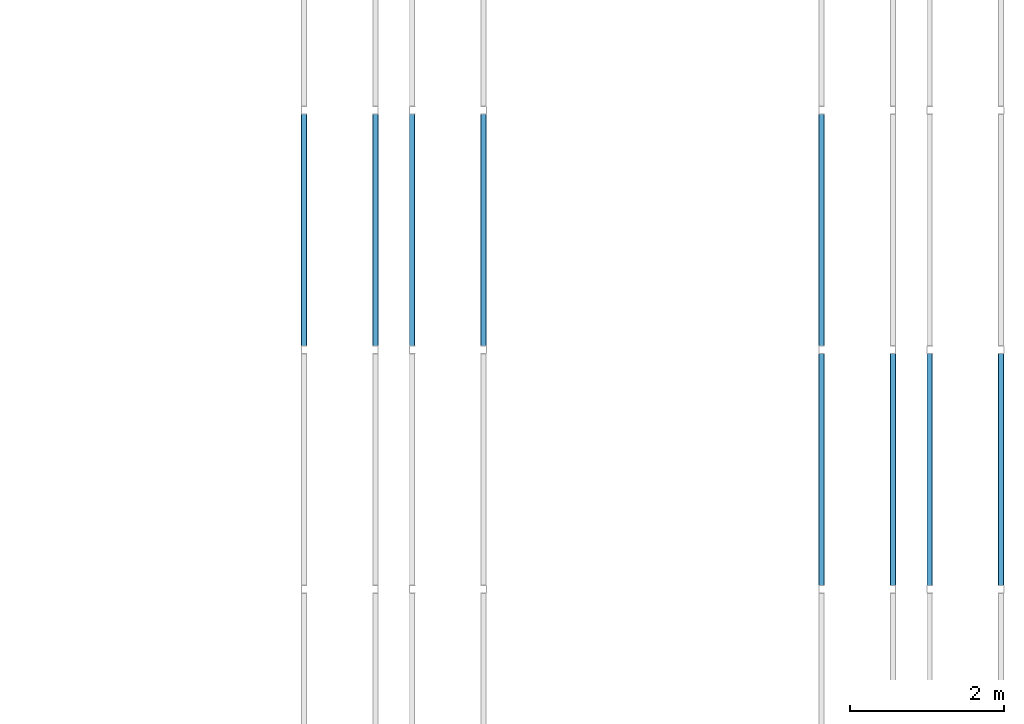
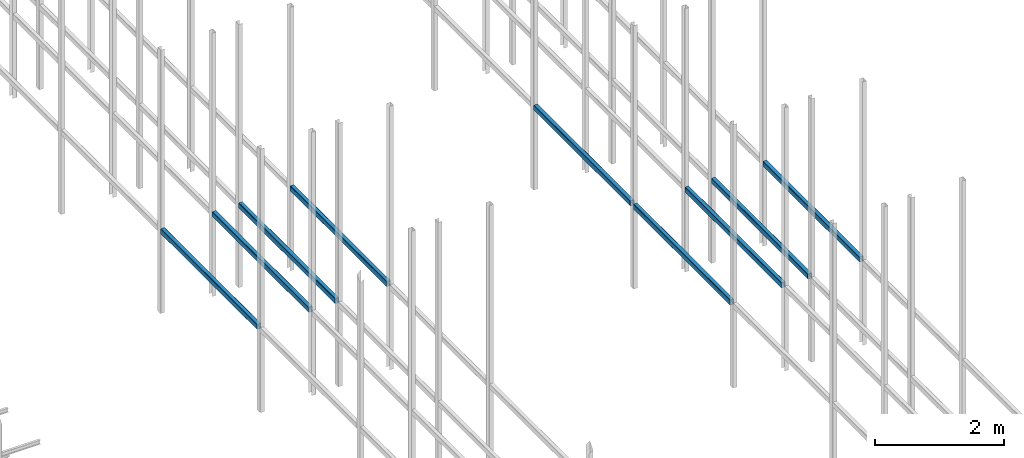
# One storey, part 187 of 302: 9 beams.
"""IFC2X3 building model written with IfcOpenShell, lengths in metres."""

from ifc_helpers import new_model, entity, si_unit, converted_unit, derived_unit, direction, frame, frame_2d, origin, place, context, subcontext, project, spatial, polyline, circle_curve, parameter, trimmed, segment, composite_curve, outline, extrude, material, type_object, element, save


model = new_model("IFC2X3")

# Units and contexts
model_context = context("Model", 3, precision=1e-05, world=origin(), true_north=direction((6.12303176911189e-17, 1.0)))
body_context = subcontext(model_context, "Body", "Model", "MODEL_VIEW")
ifc_project = project(units=[si_unit("LENGTHUNIT", "METRE"), si_unit("AREAUNIT", "SQUARE_METRE"), si_unit("VOLUMEUNIT", "CUBIC_METRE"), converted_unit("PLANEANGLEUNIT", "DEGREE", entity("IfcRatioMeasure", 0.0174532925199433), si_unit("PLANEANGLEUNIT", "RADIAN"), dimensions=[0, 0, 0, 0, 0, 0, 0]), si_unit("MASSUNIT", "GRAM", prefix="KILO"), derived_unit("MASSDENSITYUNIT", [(si_unit("MASSUNIT", "GRAM", prefix="KILO"), 1), (si_unit("LENGTHUNIT", "METRE"), -3)]), derived_unit("MOMENTOFINERTIAUNIT", [(si_unit("LENGTHUNIT", "METRE"), 4)]), si_unit("TIMEUNIT", "SECOND"), si_unit("FREQUENCYUNIT", "HERTZ"), si_unit("THERMODYNAMICTEMPERATUREUNIT", "DEGREE_CELSIUS"), derived_unit("THERMALTRANSMITTANCEUNIT", [(si_unit("MASSUNIT", "GRAM", prefix="KILO"), 1), (si_unit("THERMODYNAMICTEMPERATUREUNIT", "KELVIN"), -1), (si_unit("TIMEUNIT", "SECOND"), -3)]), derived_unit("VOLUMETRICFLOWRATEUNIT", [(si_unit("LENGTHUNIT", "METRE"), 3), (si_unit("TIMEUNIT", "SECOND"), -1)]), si_unit("ELECTRICCURRENTUNIT", "AMPERE"), si_unit("ELECTRICVOLTAGEUNIT", "VOLT"), si_unit("POWERUNIT", "WATT"), si_unit("FORCEUNIT", "NEWTON", prefix="KILO"), si_unit("ILLUMINANCEUNIT", "LUX"), si_unit("LUMINOUSFLUXUNIT", "LUMEN"), si_unit("LUMINOUSINTENSITYUNIT", "CANDELA"), derived_unit("USERDEFINED", [(si_unit("MASSUNIT", "GRAM", prefix="KILO"), -1), (si_unit("LENGTHUNIT", "METRE"), -2), (si_unit("TIMEUNIT", "SECOND"), 3), (si_unit("LUMINOUSFLUXUNIT", "LUMEN"), 1)]), derived_unit("LINEARVELOCITYUNIT", [(si_unit("LENGTHUNIT", "METRE"), 1), (si_unit("TIMEUNIT", "SECOND"), -1)]), si_unit("PRESSUREUNIT", "PASCAL"), derived_unit("USERDEFINED", [(si_unit("LENGTHUNIT", "METRE"), -2), (si_unit("MASSUNIT", "GRAM", prefix="KILO"), 1), (si_unit("TIMEUNIT", "SECOND"), -2)]), derived_unit("LINEARFORCEUNIT", [(si_unit("MASSUNIT", "GRAM", prefix="KILO"), 1), (si_unit("LENGTHUNIT", "METRE"), 1), (si_unit("TIMEUNIT", "SECOND"), -2), (si_unit("LENGTHUNIT", "METRE"), -1)]), derived_unit("PLANARFORCEUNIT", [(si_unit("MASSUNIT", "GRAM", prefix="KILO"), 1), (si_unit("LENGTHUNIT", "METRE"), 1), (si_unit("TIMEUNIT", "SECOND"), -2), (si_unit("LENGTHUNIT", "METRE"), -2)])], contexts=[model_context])

# Site, building, storey
site_placement = place(None, origin())
site = spatial("IfcSite", under=ifc_project, at=site_placement, Name="Default", CompositionType="ELEMENT")
building_placement = place(site_placement, origin())
building = spatial("IfcBuilding", under=site, at=building_placement, CompositionType="ELEMENT")
storey_placement = place(building_placement, frame((0.0, 0.0, -1.3)))
storey = spatial("IfcBuildingStorey", under=building, at=storey_placement, Name="00_EG", CompositionType="ELEMENT", Elevation=-1.3)

# Beams
ifc_material = material(Name="Metall - Baustahl S235 blau")
beam_type = type_object("IfcBeamType", Name="RHS Träger (EN 10219-2):RHS 100 x 75 x 5", PredefinedType="NOTDEFINED")
beam_1_placement = place(storey_placement, frame((-159.118311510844, 51.4480889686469, 2.885), z_axis=(0.0, 0.0, 1.0), x_axis=(0.0, 1.0, 0.0)))
element("IfcBeam", 1, at=beam_1_placement, inside=storey, type_object=beam_type, material=ifc_material, Name="RHS Träger (EN 10219-2):RHS 100 x 75 x 5", ObjectType="RHS Träger (EN 10219-2):RHS 100 x 75 x 5", context=body_context, shape_type="SweptSolid", body=[
    extrude(outline(composite_curve([segment(trimmed(circle_curve(frame_2d((-0.0274999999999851, -0.0400000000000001), x_axis=(1.0, 0.0)), 0.01), [parameter(180.0)], [parameter(270.0)], True, "PARAMETER"), True, "CONTINUOUS"), segment(polyline([(-0.0274999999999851, -0.05), (0.0274999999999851, -0.05)]), True, "CONTINUOUS"), segment(trimmed(circle_curve(frame_2d((0.0274999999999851, -0.0400000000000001), x_axis=(1.0, 0.0)), 0.01), [parameter(270.0)], [parameter(5.08888749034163e-14)], True, "PARAMETER"), True, "CONTINUOUS"), segment(polyline([(0.0375000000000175, -0.0399999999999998), (0.0375000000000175, 0.0400000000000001)]), True, "CONTINUOUS"), segment(trimmed(circle_curve(frame_2d((0.0274999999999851, 0.0399999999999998), x_axis=(1.0, 0.0)), 0.01), [parameter(360.0)], [parameter(89.9999999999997)], True, "PARAMETER"), True, "CONTINUOUS"), segment(polyline([(0.0274999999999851, 0.05), (-0.0274999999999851, 0.05)]), True, "CONTINUOUS"), segment(trimmed(circle_curve(frame_2d((-0.0274999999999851, 0.0399999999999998), x_axis=(1.0, 0.0)), 0.01), [parameter(90.0000000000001)], [parameter(180.0)], True, "PARAMETER"), True, "CONTINUOUS"), segment(polyline([(-0.0374999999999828, 0.0400000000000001), (-0.0374999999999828, -0.0399999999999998)]), True, "CONTINUOUS")], self_intersect=False), holes=[composite_curve([segment(polyline([(0.0274999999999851, -0.0450000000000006), (-0.0274999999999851, -0.0450000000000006)]), True, "CONTINUOUS"), segment(trimmed(circle_curve(frame_2d((-0.0274999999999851, -0.0400000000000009), x_axis=(1.0, 0.0)), 0.005), [parameter(180.0)], [parameter(270.0)], True, "PARAMETER"), False, "CONTINUOUS"), segment(polyline([(-0.0325000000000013, -0.0400000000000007), (-0.0325000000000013, 0.0399999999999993)]), True, "CONTINUOUS"), segment(trimmed(circle_curve(frame_2d((-0.0274999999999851, 0.039999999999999), x_axis=(1.0, 0.0)), 0.005), [parameter(90.0000000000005)], [parameter(180.0)], True, "PARAMETER"), False, "CONTINUOUS"), segment(polyline([(-0.0274999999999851, 0.0449999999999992), (0.0274999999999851, 0.0449999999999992)]), True, "CONTINUOUS"), segment(trimmed(circle_curve(frame_2d((0.0274999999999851, 0.039999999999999), x_axis=(1.0, 0.0)), 0.005), [parameter(0.0)], [parameter(90.0000000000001)], True, "PARAMETER"), False, "CONTINUOUS"), segment(polyline([(0.0325000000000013, 0.0399999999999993), (0.0325000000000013, -0.0400000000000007)]), True, "CONTINUOUS"), segment(trimmed(circle_curve(frame_2d((0.0274999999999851, -0.0400000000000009), x_axis=(1.0, 0.0)), 0.005), [parameter(270.0)], [parameter(4.07110999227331e-13)], True, "PARAMETER"), False, "CONTINUOUS")], self_intersect=False)]), frame((0.000100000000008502, 0.0375000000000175, -0.0500000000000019), z_axis=(1.0, 0.0, 0.0), x_axis=(0.0, -1.0, 0.0)), (0.0, 0.0, 1.0), 2.99979999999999),
])
beam_2_placement = place(storey_placement, frame((-158.268311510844, 51.4480889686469, 2.885), z_axis=(0.0, 0.0, 1.0), x_axis=(0.0, 1.0, 0.0)))
element("IfcBeam", 2, at=beam_2_placement, inside=storey, type_object=beam_type, material=ifc_material, Name="RHS Träger (EN 10219-2):RHS 100 x 75 x 5", ObjectType="RHS Träger (EN 10219-2):RHS 100 x 75 x 5", context=body_context, shape_type="SweptSolid", body=[
    extrude(outline(composite_curve([segment(polyline([(-0.0399999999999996, -0.0375000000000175), (0.0400000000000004, -0.0375000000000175)]), True, "CONTINUOUS"), segment(trimmed(circle_curve(frame_2d((0.0400000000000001, -0.0275000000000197), x_axis=(0.0, 1.0)), 0.01), [parameter(180.0)], [parameter(270.0)], True, "PARAMETER"), True, "CONTINUOUS"), segment(polyline([(0.0500000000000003, -0.0275000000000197), (0.0500000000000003, 0.0274999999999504)]), True, "CONTINUOUS"), segment(trimmed(circle_curve(frame_2d((0.0400000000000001, 0.0274999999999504), x_axis=(0.0, 1.0)), 0.01), [parameter(270.0)], [parameter(4.07110999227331e-13)], True, "PARAMETER"), True, "CONTINUOUS"), segment(polyline([(0.0400000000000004, 0.0374999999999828), (-0.0399999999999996, 0.0374999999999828)]), True, "CONTINUOUS"), segment(trimmed(circle_curve(frame_2d((-0.0399999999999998, 0.0274999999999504), x_axis=(0.0, 1.0)), 0.01), [parameter(360.0)], [parameter(90.0000000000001)], True, "PARAMETER"), True, "CONTINUOUS"), segment(polyline([(-0.0499999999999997, 0.0274999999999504), (-0.0499999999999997, -0.0275000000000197)]), True, "CONTINUOUS"), segment(trimmed(circle_curve(frame_2d((-0.0399999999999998, -0.0275000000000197), x_axis=(0.0, 1.0)), 0.01), [parameter(90.0000000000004)], [parameter(180.0)], True, "PARAMETER"), True, "CONTINUOUS")], self_intersect=False), holes=[composite_curve([segment(trimmed(circle_curve(frame_2d((-0.0400000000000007, 0.0274999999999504), x_axis=(0.0, 1.0)), 0.005), [parameter(360.0)], [parameter(89.9999999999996)], True, "PARAMETER"), False, "CONTINUOUS"), segment(polyline([(-0.0400000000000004, 0.0324999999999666), (0.0399999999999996, 0.0324999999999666)]), True, "CONTINUOUS"), segment(trimmed(circle_curve(frame_2d((0.0399999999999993, 0.0274999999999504), x_axis=(0.0, 1.0)), 0.005), [parameter(270.0)], [parameter(0.0)], True, "PARAMETER"), False, "CONTINUOUS"), segment(polyline([(0.0449999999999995, 0.0274999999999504), (0.0449999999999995, -0.0275000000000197)]), True, "CONTINUOUS"), segment(trimmed(circle_curve(frame_2d((0.0399999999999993, -0.0275000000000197), x_axis=(0.0, 1.0)), 0.005), [parameter(180.0)], [parameter(269.999999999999)], True, "PARAMETER"), False, "CONTINUOUS"), segment(polyline([(0.0399999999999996, -0.0325000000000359), (-0.0400000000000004, -0.0325000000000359)]), True, "CONTINUOUS"), segment(trimmed(circle_curve(frame_2d((-0.0400000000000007, -0.0275000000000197), x_axis=(0.0, 1.0)), 0.005), [parameter(90.0000000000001)], [parameter(180.0)], True, "PARAMETER"), False, "CONTINUOUS"), segment(polyline([(-0.0450000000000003, -0.0275000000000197), (-0.0450000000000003, 0.0274999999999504)]), True, "CONTINUOUS")], self_intersect=False)]), frame((9.99999999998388e-05, -0.0374999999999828, -0.0500000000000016), z_axis=(1.0, 0.0, 0.0), x_axis=(0.0, 0.0, -1.0)), (0.0, 0.0, 1.0), 2.99979999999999),
])
beam_3_placement = place(storey_placement, frame((-157.718311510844, 51.4480889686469, 2.885), z_axis=(0.0, 0.0, 1.0), x_axis=(0.0, 1.0, 0.0)))
element("IfcBeam", 3, at=beam_3_placement, inside=storey, type_object=beam_type, material=ifc_material, Name="RHS Träger (EN 10219-2):RHS 100 x 75 x 5", ObjectType="RHS Träger (EN 10219-2):RHS 100 x 75 x 5", context=body_context, shape_type="SweptSolid", body=[
    extrude(outline(composite_curve([segment(trimmed(circle_curve(frame_2d((-0.0274999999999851, -0.0400000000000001), x_axis=(1.0, 0.0)), 0.01), [parameter(180.0)], [parameter(270.0)], True, "PARAMETER"), True, "CONTINUOUS"), segment(polyline([(-0.0274999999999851, -0.05), (0.0274999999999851, -0.05)]), True, "CONTINUOUS"), segment(trimmed(circle_curve(frame_2d((0.0274999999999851, -0.0400000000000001), x_axis=(1.0, 0.0)), 0.01), [parameter(270.0)], [parameter(5.08888749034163e-14)], True, "PARAMETER"), True, "CONTINUOUS"), segment(polyline([(0.0375000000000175, -0.0399999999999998), (0.0375000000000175, 0.0400000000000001)]), True, "CONTINUOUS"), segment(trimmed(circle_curve(frame_2d((0.0274999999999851, 0.0399999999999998), x_axis=(1.0, 0.0)), 0.01), [parameter(360.0)], [parameter(89.9999999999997)], True, "PARAMETER"), True, "CONTINUOUS"), segment(polyline([(0.0274999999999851, 0.05), (-0.0274999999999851, 0.05)]), True, "CONTINUOUS"), segment(trimmed(circle_curve(frame_2d((-0.0274999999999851, 0.0399999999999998), x_axis=(1.0, 0.0)), 0.01), [parameter(90.0000000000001)], [parameter(180.0)], True, "PARAMETER"), True, "CONTINUOUS"), segment(polyline([(-0.0374999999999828, 0.0400000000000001), (-0.0374999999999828, -0.0399999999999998)]), True, "CONTINUOUS")], self_intersect=False), holes=[composite_curve([segment(polyline([(0.0274999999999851, -0.0450000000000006), (-0.0274999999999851, -0.0450000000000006)]), True, "CONTINUOUS"), segment(trimmed(circle_curve(frame_2d((-0.0274999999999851, -0.0400000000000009), x_axis=(1.0, 0.0)), 0.005), [parameter(180.0)], [parameter(270.0)], True, "PARAMETER"), False, "CONTINUOUS"), segment(polyline([(-0.0325000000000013, -0.0400000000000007), (-0.0325000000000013, 0.0399999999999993)]), True, "CONTINUOUS"), segment(trimmed(circle_curve(frame_2d((-0.0274999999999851, 0.039999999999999), x_axis=(1.0, 0.0)), 0.005), [parameter(90.0000000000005)], [parameter(180.0)], True, "PARAMETER"), False, "CONTINUOUS"), segment(polyline([(-0.0274999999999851, 0.0449999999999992), (0.0274999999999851, 0.0449999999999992)]), True, "CONTINUOUS"), segment(trimmed(circle_curve(frame_2d((0.0274999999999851, 0.039999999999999), x_axis=(1.0, 0.0)), 0.005), [parameter(0.0)], [parameter(90.0000000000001)], True, "PARAMETER"), False, "CONTINUOUS"), segment(polyline([(0.0325000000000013, 0.0399999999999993), (0.0325000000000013, -0.0400000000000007)]), True, "CONTINUOUS"), segment(trimmed(circle_curve(frame_2d((0.0274999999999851, -0.0400000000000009), x_axis=(1.0, 0.0)), 0.005), [parameter(270.0)], [parameter(4.07110999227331e-13)], True, "PARAMETER"), False, "CONTINUOUS")], self_intersect=False)]), frame((0.000100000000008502, 0.0375000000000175, -0.0500000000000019), z_axis=(1.0, 0.0, 0.0), x_axis=(0.0, -1.0, 0.0)), (0.0, 0.0, 1.0), 2.99979999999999),
])
beam_4_placement = place(storey_placement, frame((-156.868311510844, 51.4480889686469, 2.885), z_axis=(0.0, 0.0, 1.0), x_axis=(0.0, 1.0, 0.0)))
element("IfcBeam", 4, at=beam_4_placement, inside=storey, type_object=beam_type, material=ifc_material, Name="RHS Träger (EN 10219-2):RHS 100 x 75 x 5", ObjectType="RHS Träger (EN 10219-2):RHS 100 x 75 x 5", context=body_context, shape_type="SweptSolid", body=[
    extrude(outline(composite_curve([segment(polyline([(-0.0399999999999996, -0.0374999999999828), (0.0400000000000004, -0.0374999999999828)]), True, "CONTINUOUS"), segment(trimmed(circle_curve(frame_2d((0.0400000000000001, -0.0274999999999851), x_axis=(0.0, 1.0)), 0.01), [parameter(180.0)], [parameter(270.0)], True, "PARAMETER"), True, "CONTINUOUS"), segment(polyline([(0.0500000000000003, -0.0274999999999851), (0.0500000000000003, 0.0274999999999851)]), True, "CONTINUOUS"), segment(trimmed(circle_curve(frame_2d((0.0400000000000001, 0.0274999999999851), x_axis=(0.0, 1.0)), 0.01), [parameter(270.0)], [parameter(4.07110999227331e-13)], True, "PARAMETER"), True, "CONTINUOUS"), segment(polyline([(0.0400000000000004, 0.0375000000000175), (-0.0399999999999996, 0.0375000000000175)]), True, "CONTINUOUS"), segment(trimmed(circle_curve(frame_2d((-0.0399999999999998, 0.0274999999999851), x_axis=(0.0, 1.0)), 0.01), [parameter(360.0)], [parameter(90.0000000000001)], True, "PARAMETER"), True, "CONTINUOUS"), segment(polyline([(-0.0499999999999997, 0.0274999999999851), (-0.0499999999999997, -0.0274999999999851)]), True, "CONTINUOUS"), segment(trimmed(circle_curve(frame_2d((-0.0399999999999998, -0.0274999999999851), x_axis=(0.0, 1.0)), 0.01), [parameter(90.0000000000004)], [parameter(180.0)], True, "PARAMETER"), True, "CONTINUOUS")], self_intersect=False), holes=[composite_curve([segment(trimmed(circle_curve(frame_2d((-0.0400000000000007, 0.0274999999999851), x_axis=(0.0, 1.0)), 0.005), [parameter(360.0)], [parameter(89.9999999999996)], True, "PARAMETER"), False, "CONTINUOUS"), segment(polyline([(-0.0400000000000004, 0.0325000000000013), (0.0399999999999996, 0.0325000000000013)]), True, "CONTINUOUS"), segment(trimmed(circle_curve(frame_2d((0.0399999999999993, 0.0274999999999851), x_axis=(0.0, 1.0)), 0.005), [parameter(270.0)], [parameter(0.0)], True, "PARAMETER"), False, "CONTINUOUS"), segment(polyline([(0.0449999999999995, 0.0274999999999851), (0.0449999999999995, -0.0274999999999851)]), True, "CONTINUOUS"), segment(trimmed(circle_curve(frame_2d((0.0399999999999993, -0.0274999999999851), x_axis=(0.0, 1.0)), 0.005), [parameter(180.0)], [parameter(269.999999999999)], True, "PARAMETER"), False, "CONTINUOUS"), segment(polyline([(0.0399999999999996, -0.0325000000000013), (-0.0400000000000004, -0.0325000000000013)]), True, "CONTINUOUS"), segment(trimmed(circle_curve(frame_2d((-0.0400000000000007, -0.0274999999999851), x_axis=(0.0, 1.0)), 0.005), [parameter(90.0000000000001)], [parameter(180.0)], True, "PARAMETER"), False, "CONTINUOUS"), segment(polyline([(-0.0450000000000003, -0.0274999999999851), (-0.0450000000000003, 0.0274999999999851)]), True, "CONTINUOUS")], self_intersect=False)]), frame((9.99999999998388e-05, -0.0375000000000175, -0.0500000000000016), z_axis=(1.0, 0.0, 0.0), x_axis=(0.0, 0.0, -1.0)), (0.0, 0.0, 1.0), 2.99979999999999),
])
beam_5_placement = place(storey_placement, frame((-152.418311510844, 48.3480889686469, 2.885), z_axis=(0.0, 0.0, 1.0), x_axis=(0.0, 1.0, 0.0)))
element("IfcBeam", 5, at=beam_5_placement, inside=storey, type_object=beam_type, material=ifc_material, Name="RHS Träger (EN 10219-2):RHS 100 x 75 x 5", ObjectType="RHS Träger (EN 10219-2):RHS 100 x 75 x 5", context=body_context, shape_type="SweptSolid", body=[
    extrude(outline(composite_curve([segment(trimmed(circle_curve(frame_2d((-0.0275000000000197, -0.0400000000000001), x_axis=(1.0, 0.0)), 0.01), [parameter(180.0)], [parameter(270.0)], True, "PARAMETER"), True, "CONTINUOUS"), segment(polyline([(-0.0275000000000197, -0.05), (0.0274999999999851, -0.05)]), True, "CONTINUOUS"), segment(trimmed(circle_curve(frame_2d((0.0274999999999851, -0.0400000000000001), x_axis=(1.0, 0.0)), 0.01), [parameter(270.0)], [parameter(5.08888749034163e-14)], True, "PARAMETER"), True, "CONTINUOUS"), segment(polyline([(0.0374999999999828, -0.0399999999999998), (0.0374999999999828, 0.0400000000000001)]), True, "CONTINUOUS"), segment(trimmed(circle_curve(frame_2d((0.0274999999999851, 0.0399999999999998), x_axis=(1.0, 0.0)), 0.01), [parameter(360.0)], [parameter(89.9999999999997)], True, "PARAMETER"), True, "CONTINUOUS"), segment(polyline([(0.0274999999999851, 0.05), (-0.0275000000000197, 0.05)]), True, "CONTINUOUS"), segment(trimmed(circle_curve(frame_2d((-0.0275000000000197, 0.0399999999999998), x_axis=(1.0, 0.0)), 0.01), [parameter(90.0000000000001)], [parameter(180.0)], True, "PARAMETER"), True, "CONTINUOUS"), segment(polyline([(-0.0375000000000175, 0.0400000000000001), (-0.0375000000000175, -0.0399999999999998)]), True, "CONTINUOUS")], self_intersect=False), holes=[composite_curve([segment(polyline([(0.0274999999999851, -0.0450000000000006), (-0.0275000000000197, -0.0450000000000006)]), True, "CONTINUOUS"), segment(trimmed(circle_curve(frame_2d((-0.0275000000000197, -0.0400000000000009), x_axis=(1.0, 0.0)), 0.005), [parameter(180.0)], [parameter(270.0)], True, "PARAMETER"), False, "CONTINUOUS"), segment(polyline([(-0.0325000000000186, -0.0400000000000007), (-0.0325000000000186, 0.0399999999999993)]), True, "CONTINUOUS"), segment(trimmed(circle_curve(frame_2d((-0.0275000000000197, 0.039999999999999), x_axis=(1.0, 0.0)), 0.005), [parameter(90.0000000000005)], [parameter(180.0)], True, "PARAMETER"), False, "CONTINUOUS"), segment(polyline([(-0.0275000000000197, 0.0449999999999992), (0.0274999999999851, 0.0449999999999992)]), True, "CONTINUOUS"), segment(trimmed(circle_curve(frame_2d((0.0274999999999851, 0.039999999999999), x_axis=(1.0, 0.0)), 0.005), [parameter(0.0)], [parameter(90.0000000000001)], True, "PARAMETER"), False, "CONTINUOUS"), segment(polyline([(0.0324999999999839, 0.0399999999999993), (0.0324999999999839, -0.0400000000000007)]), True, "CONTINUOUS"), segment(trimmed(circle_curve(frame_2d((0.0274999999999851, -0.0400000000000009), x_axis=(1.0, 0.0)), 0.005), [parameter(270.0)], [parameter(4.07110999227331e-13)], True, "PARAMETER"), False, "CONTINUOUS")], self_intersect=False)]), frame((0.000100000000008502, 0.0374999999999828, -0.0500000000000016), z_axis=(1.0, 0.0, 0.0), x_axis=(0.0, -1.0, 0.0)), (0.0, 0.0, 1.0), 2.99979999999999),
])
beam_6_placement = place(storey_placement, frame((-151.568311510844, 48.3480889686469, 2.885), z_axis=(0.0, 0.0, 1.0), x_axis=(0.0, 1.0, 0.0)))
element("IfcBeam", 6, at=beam_6_placement, inside=storey, type_object=beam_type, material=ifc_material, Name="RHS Träger (EN 10219-2):RHS 100 x 75 x 5", ObjectType="RHS Träger (EN 10219-2):RHS 100 x 75 x 5", context=body_context, shape_type="SweptSolid", body=[
    extrude(outline(composite_curve([segment(polyline([(-0.0399999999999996, -0.0374999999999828), (0.0400000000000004, -0.0374999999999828)]), True, "CONTINUOUS"), segment(trimmed(circle_curve(frame_2d((0.0400000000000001, -0.0274999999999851), x_axis=(0.0, 1.0)), 0.01), [parameter(180.0)], [parameter(270.0)], True, "PARAMETER"), True, "CONTINUOUS"), segment(polyline([(0.0500000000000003, -0.0274999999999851), (0.0500000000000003, 0.0275000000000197)]), True, "CONTINUOUS"), segment(trimmed(circle_curve(frame_2d((0.0400000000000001, 0.0275000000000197), x_axis=(0.0, 1.0)), 0.01), [parameter(270.0)], [parameter(4.07110999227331e-13)], True, "PARAMETER"), True, "CONTINUOUS"), segment(polyline([(0.0400000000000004, 0.0375000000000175), (-0.0399999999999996, 0.0375000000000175)]), True, "CONTINUOUS"), segment(trimmed(circle_curve(frame_2d((-0.0399999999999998, 0.0275000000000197), x_axis=(0.0, 1.0)), 0.01), [parameter(360.0)], [parameter(90.0000000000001)], True, "PARAMETER"), True, "CONTINUOUS"), segment(polyline([(-0.0499999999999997, 0.0275000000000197), (-0.0499999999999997, -0.0274999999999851)]), True, "CONTINUOUS"), segment(trimmed(circle_curve(frame_2d((-0.0399999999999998, -0.0274999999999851), x_axis=(0.0, 1.0)), 0.01), [parameter(90.0000000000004)], [parameter(180.0)], True, "PARAMETER"), True, "CONTINUOUS")], self_intersect=False), holes=[composite_curve([segment(trimmed(circle_curve(frame_2d((-0.0400000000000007, 0.0275000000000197), x_axis=(0.0, 1.0)), 0.005), [parameter(360.0)], [parameter(89.9999999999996)], True, "PARAMETER"), False, "CONTINUOUS"), segment(polyline([(-0.0400000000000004, 0.0325000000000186), (0.0399999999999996, 0.0325000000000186)]), True, "CONTINUOUS"), segment(trimmed(circle_curve(frame_2d((0.0399999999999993, 0.0275000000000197), x_axis=(0.0, 1.0)), 0.005), [parameter(270.0)], [parameter(0.0)], True, "PARAMETER"), False, "CONTINUOUS"), segment(polyline([(0.0449999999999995, 0.0275000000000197), (0.0449999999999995, -0.0274999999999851)]), True, "CONTINUOUS"), segment(trimmed(circle_curve(frame_2d((0.0399999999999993, -0.0274999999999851), x_axis=(0.0, 1.0)), 0.005), [parameter(180.0)], [parameter(269.999999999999)], True, "PARAMETER"), False, "CONTINUOUS"), segment(polyline([(0.0399999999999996, -0.0324999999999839), (-0.0400000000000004, -0.0324999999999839)]), True, "CONTINUOUS"), segment(trimmed(circle_curve(frame_2d((-0.0400000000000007, -0.0274999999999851), x_axis=(0.0, 1.0)), 0.005), [parameter(90.0000000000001)], [parameter(180.0)], True, "PARAMETER"), False, "CONTINUOUS"), segment(polyline([(-0.0450000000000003, -0.0274999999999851), (-0.0450000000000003, 0.0275000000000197)]), True, "CONTINUOUS")], self_intersect=False)]), frame((0.000100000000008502, -0.0375000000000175, -0.0500000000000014), z_axis=(1.0, 0.0, 0.0), x_axis=(0.0, 0.0, -1.0)), (0.0, 0.0, 1.0), 2.99979999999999),
])
beam_7_placement = place(storey_placement, frame((-151.018311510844, 48.3480889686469, 2.885), z_axis=(0.0, 0.0, 1.0), x_axis=(0.0, 1.0, 0.0)))
element("IfcBeam", 7, at=beam_7_placement, inside=storey, type_object=beam_type, material=ifc_material, Name="RHS Träger (EN 10219-2):RHS 100 x 75 x 5", ObjectType="RHS Träger (EN 10219-2):RHS 100 x 75 x 5", context=body_context, shape_type="SweptSolid", body=[
    extrude(outline(composite_curve([segment(trimmed(circle_curve(frame_2d((-0.0275000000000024, -0.0400000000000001), x_axis=(1.0, 0.0)), 0.01), [parameter(180.0)], [parameter(270.0)], True, "PARAMETER"), True, "CONTINUOUS"), segment(polyline([(-0.0275000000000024, -0.05), (0.0275000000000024, -0.05)]), True, "CONTINUOUS"), segment(trimmed(circle_curve(frame_2d((0.0275000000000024, -0.0400000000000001), x_axis=(1.0, 0.0)), 0.01), [parameter(270.0)], [parameter(5.08888749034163e-14)], True, "PARAMETER"), True, "CONTINUOUS"), segment(polyline([(0.0375000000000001, -0.0399999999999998), (0.0375000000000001, 0.0400000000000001)]), True, "CONTINUOUS"), segment(trimmed(circle_curve(frame_2d((0.0275000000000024, 0.0399999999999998), x_axis=(1.0, 0.0)), 0.01), [parameter(360.0)], [parameter(89.9999999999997)], True, "PARAMETER"), True, "CONTINUOUS"), segment(polyline([(0.0275000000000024, 0.05), (-0.0275000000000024, 0.05)]), True, "CONTINUOUS"), segment(trimmed(circle_curve(frame_2d((-0.0275000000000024, 0.0399999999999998), x_axis=(1.0, 0.0)), 0.01), [parameter(90.0000000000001)], [parameter(180.0)], True, "PARAMETER"), True, "CONTINUOUS"), segment(polyline([(-0.0375000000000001, 0.0400000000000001), (-0.0375000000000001, -0.0399999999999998)]), True, "CONTINUOUS")], self_intersect=False), holes=[composite_curve([segment(polyline([(0.0275000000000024, -0.0450000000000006), (-0.0275000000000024, -0.0450000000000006)]), True, "CONTINUOUS"), segment(trimmed(circle_curve(frame_2d((-0.0275000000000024, -0.0400000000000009), x_axis=(1.0, 0.0)), 0.005), [parameter(180.0)], [parameter(270.0)], True, "PARAMETER"), False, "CONTINUOUS"), segment(polyline([(-0.0325000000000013, -0.0400000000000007), (-0.0325000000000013, 0.0399999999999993)]), True, "CONTINUOUS"), segment(trimmed(circle_curve(frame_2d((-0.0275000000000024, 0.039999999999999), x_axis=(1.0, 0.0)), 0.005), [parameter(90.0000000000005)], [parameter(180.0)], True, "PARAMETER"), False, "CONTINUOUS"), segment(polyline([(-0.0275000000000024, 0.0449999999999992), (0.0275000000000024, 0.0449999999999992)]), True, "CONTINUOUS"), segment(trimmed(circle_curve(frame_2d((0.0275000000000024, 0.039999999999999), x_axis=(1.0, 0.0)), 0.005), [parameter(0.0)], [parameter(90.0000000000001)], True, "PARAMETER"), False, "CONTINUOUS"), segment(polyline([(0.0325000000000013, 0.0399999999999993), (0.0325000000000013, -0.0400000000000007)]), True, "CONTINUOUS"), segment(trimmed(circle_curve(frame_2d((0.0275000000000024, -0.0400000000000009), x_axis=(1.0, 0.0)), 0.005), [parameter(270.0)], [parameter(4.07110999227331e-13)], True, "PARAMETER"), False, "CONTINUOUS")], self_intersect=False)]), frame((0.000100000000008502, 0.0375000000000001, -0.0500000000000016), z_axis=(1.0, 0.0, 0.0), x_axis=(0.0, -1.0, 0.0)), (0.0, 0.0, 1.0), 2.99979999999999),
])
beam_8_placement = place(storey_placement, frame((-150.168311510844, 48.3480889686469, 2.885), z_axis=(0.0, 0.0, 1.0), x_axis=(0.0, 1.0, 0.0)))
element("IfcBeam", 8, at=beam_8_placement, inside=storey, type_object=beam_type, material=ifc_material, Name="RHS Träger (EN 10219-2):RHS 100 x 75 x 5", ObjectType="RHS Träger (EN 10219-2):RHS 100 x 75 x 5", context=body_context, shape_type="SweptSolid", body=[
    extrude(outline(composite_curve([segment(polyline([(-0.0399999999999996, -0.0375000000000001), (0.0400000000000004, -0.0375000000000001)]), True, "CONTINUOUS"), segment(trimmed(circle_curve(frame_2d((0.0400000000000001, -0.0275000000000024), x_axis=(0.0, 1.0)), 0.01), [parameter(180.0)], [parameter(270.0)], True, "PARAMETER"), True, "CONTINUOUS"), segment(polyline([(0.0500000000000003, -0.0275000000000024), (0.0500000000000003, 0.0275000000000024)]), True, "CONTINUOUS"), segment(trimmed(circle_curve(frame_2d((0.0400000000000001, 0.0275000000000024), x_axis=(0.0, 1.0)), 0.01), [parameter(270.0)], [parameter(4.07110999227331e-13)], True, "PARAMETER"), True, "CONTINUOUS"), segment(polyline([(0.0400000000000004, 0.0375000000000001), (-0.0399999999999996, 0.0375000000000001)]), True, "CONTINUOUS"), segment(trimmed(circle_curve(frame_2d((-0.0399999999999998, 0.0275000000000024), x_axis=(0.0, 1.0)), 0.01), [parameter(360.0)], [parameter(90.0000000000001)], True, "PARAMETER"), True, "CONTINUOUS"), segment(polyline([(-0.0499999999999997, 0.0275000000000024), (-0.0499999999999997, -0.0275000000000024)]), True, "CONTINUOUS"), segment(trimmed(circle_curve(frame_2d((-0.0399999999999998, -0.0275000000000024), x_axis=(0.0, 1.0)), 0.01), [parameter(90.0000000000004)], [parameter(180.0)], True, "PARAMETER"), True, "CONTINUOUS")], self_intersect=False), holes=[composite_curve([segment(trimmed(circle_curve(frame_2d((-0.0400000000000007, 0.0275000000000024), x_axis=(0.0, 1.0)), 0.005), [parameter(360.0)], [parameter(89.9999999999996)], True, "PARAMETER"), False, "CONTINUOUS"), segment(polyline([(-0.0400000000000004, 0.0325000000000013), (0.0399999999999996, 0.0325000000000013)]), True, "CONTINUOUS"), segment(trimmed(circle_curve(frame_2d((0.0399999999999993, 0.0275000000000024), x_axis=(0.0, 1.0)), 0.005), [parameter(270.0)], [parameter(0.0)], True, "PARAMETER"), False, "CONTINUOUS"), segment(polyline([(0.0449999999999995, 0.0275000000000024), (0.0449999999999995, -0.0275000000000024)]), True, "CONTINUOUS"), segment(trimmed(circle_curve(frame_2d((0.0399999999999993, -0.0275000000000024), x_axis=(0.0, 1.0)), 0.005), [parameter(180.0)], [parameter(269.999999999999)], True, "PARAMETER"), False, "CONTINUOUS"), segment(polyline([(0.0399999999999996, -0.0325000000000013), (-0.0400000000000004, -0.0325000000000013)]), True, "CONTINUOUS"), segment(trimmed(circle_curve(frame_2d((-0.0400000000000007, -0.0275000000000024), x_axis=(0.0, 1.0)), 0.005), [parameter(90.0000000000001)], [parameter(180.0)], True, "PARAMETER"), False, "CONTINUOUS"), segment(polyline([(-0.0450000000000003, -0.0275000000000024), (-0.0450000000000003, 0.0275000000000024)]), True, "CONTINUOUS")], self_intersect=False)]), frame((0.000100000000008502, -0.0375000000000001, -0.0500000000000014), z_axis=(1.0, 0.0, 0.0), x_axis=(0.0, 0.0, -1.0)), (0.0, 0.0, 1.0), 2.99979999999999),
])
beam_9_placement = place(storey_placement, frame((-152.418311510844, 51.4480889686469, 2.885), z_axis=(0.0, 0.0, 1.0), x_axis=(0.0, 1.0, 0.0)))
element("IfcBeam", 9, at=beam_9_placement, inside=storey, type_object=beam_type, material=ifc_material, Name="RHS Träger (EN 10219-2):RHS 100 x 75 x 5", ObjectType="RHS Träger (EN 10219-2):RHS 100 x 75 x 5", context=body_context, shape_type="SweptSolid", body=[
    extrude(outline(composite_curve([segment(trimmed(circle_curve(frame_2d((-0.0275000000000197, -0.0400000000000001), x_axis=(1.0, 0.0)), 0.01), [parameter(180.0)], [parameter(270.0)], True, "PARAMETER"), True, "CONTINUOUS"), segment(polyline([(-0.0275000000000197, -0.05), (0.0274999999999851, -0.05)]), True, "CONTINUOUS"), segment(trimmed(circle_curve(frame_2d((0.0274999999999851, -0.0400000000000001), x_axis=(1.0, 0.0)), 0.01), [parameter(270.0)], [parameter(5.08888749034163e-14)], True, "PARAMETER"), True, "CONTINUOUS"), segment(polyline([(0.0374999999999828, -0.0399999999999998), (0.0374999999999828, 0.0400000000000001)]), True, "CONTINUOUS"), segment(trimmed(circle_curve(frame_2d((0.0274999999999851, 0.0399999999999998), x_axis=(1.0, 0.0)), 0.01), [parameter(360.0)], [parameter(89.9999999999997)], True, "PARAMETER"), True, "CONTINUOUS"), segment(polyline([(0.0274999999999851, 0.05), (-0.0275000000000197, 0.05)]), True, "CONTINUOUS"), segment(trimmed(circle_curve(frame_2d((-0.0275000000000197, 0.0399999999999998), x_axis=(1.0, 0.0)), 0.01), [parameter(90.0000000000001)], [parameter(180.0)], True, "PARAMETER"), True, "CONTINUOUS"), segment(polyline([(-0.0375000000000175, 0.0400000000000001), (-0.0375000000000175, -0.0399999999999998)]), True, "CONTINUOUS")], self_intersect=False), holes=[composite_curve([segment(polyline([(0.0274999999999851, -0.0450000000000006), (-0.0275000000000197, -0.0450000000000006)]), True, "CONTINUOUS"), segment(trimmed(circle_curve(frame_2d((-0.0275000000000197, -0.0400000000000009), x_axis=(1.0, 0.0)), 0.005), [parameter(180.0)], [parameter(270.0)], True, "PARAMETER"), False, "CONTINUOUS"), segment(polyline([(-0.0325000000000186, -0.0400000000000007), (-0.0325000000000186, 0.0399999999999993)]), True, "CONTINUOUS"), segment(trimmed(circle_curve(frame_2d((-0.0275000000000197, 0.039999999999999), x_axis=(1.0, 0.0)), 0.005), [parameter(90.0000000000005)], [parameter(180.0)], True, "PARAMETER"), False, "CONTINUOUS"), segment(polyline([(-0.0275000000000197, 0.0449999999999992), (0.0274999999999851, 0.0449999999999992)]), True, "CONTINUOUS"), segment(trimmed(circle_curve(frame_2d((0.0274999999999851, 0.039999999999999), x_axis=(1.0, 0.0)), 0.005), [parameter(0.0)], [parameter(90.0000000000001)], True, "PARAMETER"), False, "CONTINUOUS"), segment(polyline([(0.0324999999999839, 0.0399999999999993), (0.0324999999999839, -0.0400000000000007)]), True, "CONTINUOUS"), segment(trimmed(circle_curve(frame_2d((0.0274999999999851, -0.0400000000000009), x_axis=(1.0, 0.0)), 0.005), [parameter(270.0)], [parameter(4.07110999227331e-13)], True, "PARAMETER"), False, "CONTINUOUS")], self_intersect=False)]), frame((9.99999999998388e-05, 0.0374999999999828, -0.0500000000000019), z_axis=(1.0, 0.0, 0.0), x_axis=(0.0, -1.0, 0.0)), (0.0, 0.0, 1.0), 2.99979999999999),
])

save(model, "model.ifc")
